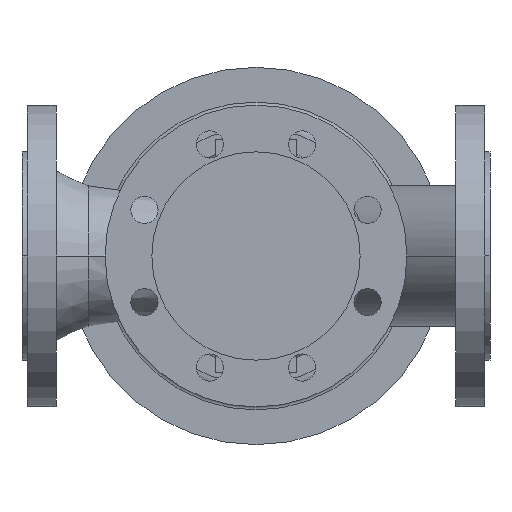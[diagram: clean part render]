
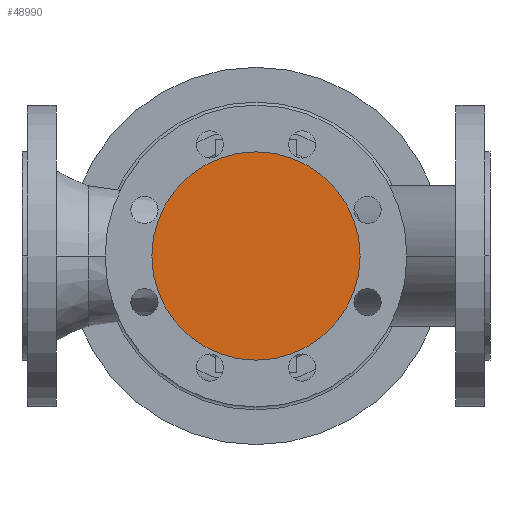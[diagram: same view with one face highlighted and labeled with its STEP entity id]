
A CAD part, front view. The second image highlights one B-rep face of the part: STEP entity #48990.
In plain terms, the highlighted planar face has unit normal (0, -1, 0).
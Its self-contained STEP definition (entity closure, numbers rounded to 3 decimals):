
#4240=CARTESIAN_POINT('',(86.,-130.,0.));
#4250=VERTEX_POINT('',#4240);
#4410=CARTESIAN_POINT('',(224.,-130.,0.));
#4420=VERTEX_POINT('',#4410);
#4450=CARTESIAN_POINT('',(155.,-130.,0.));
#4460=DIRECTION('',(0.,1.,0.));
#4470=DIRECTION('',(1.,0.,0.));
#4480=AXIS2_PLACEMENT_3D('',#4450,#4460,#4470);
#4490=CIRCLE('',#4480,69.);
#4500=EDGE_CURVE('',#4250,#4420,#4490,.T.);
#48890=CARTESIAN_POINT('',(189.5,-130.,0.));
#48900=DIRECTION('',(0.,-1.,0.));
#48910=DIRECTION('',(-1.,0.,0.));
#48920=AXIS2_PLACEMENT_3D('',#48890,#48900,#48910);
#48930=PLANE('',#48920);
#48940=EDGE_CURVE('',#4420,#4250,#4490,.T.);
#48950=ORIENTED_EDGE('',*,*,#48940,.F.);
#48960=ORIENTED_EDGE('',*,*,#4500,.F.);
#48970=EDGE_LOOP('',(#48960,#48950));
#48980=FACE_OUTER_BOUND('',#48970,.T.);
#48990=ADVANCED_FACE('',(#48980),#48930,.T.);
